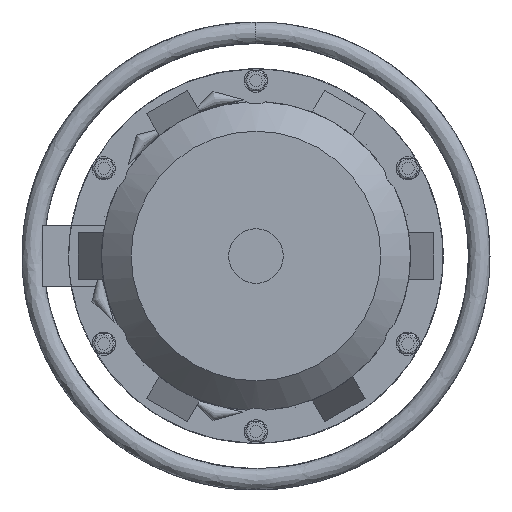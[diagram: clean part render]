
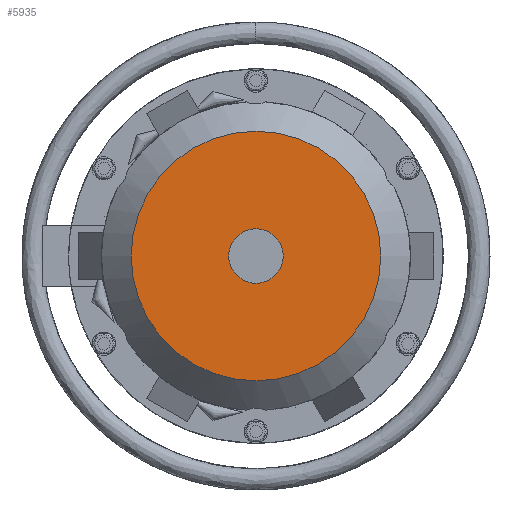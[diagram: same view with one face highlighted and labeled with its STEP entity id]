
A CAD part, left-side view. The second image highlights one B-rep face of the part: STEP entity #5935.
In plain terms, the highlighted planar face has unit normal (-1, 0, 0).
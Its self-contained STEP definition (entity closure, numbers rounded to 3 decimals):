
#1221=FACE_BOUND('',#1760,.T.);
#1389=FACE_OUTER_BOUND('',#1759,.T.);
#1759=EDGE_LOOP('',(#4304));
#1760=EDGE_LOOP('',(#4305));
#2088=CIRCLE('',#6430,17.5);
#2089=CIRCLE('',#6432,80.);
#2401=VERTEX_POINT('',#9119);
#2402=VERTEX_POINT('',#9123);
#3092=EDGE_CURVE('',#2401,#2401,#2088,.T.);
#3094=EDGE_CURVE('',#2402,#2402,#2089,.T.);
#4304=ORIENTED_EDGE('',*,*,#3094,.T.);
#4305=ORIENTED_EDGE('',*,*,#3092,.T.);
#5382=PLANE('',#6433);
#5935=ADVANCED_FACE('',(#1389,#1221),#5382,.T.);
#6430=AXIS2_PLACEMENT_3D('',#9121,#7312,#7313);
#6432=AXIS2_PLACEMENT_3D('',#9125,#7317,#7318);
#6433=AXIS2_PLACEMENT_3D('',#9126,#7319,#7320);
#7312=DIRECTION('center_axis',(1.,0.,0.));
#7313=DIRECTION('ref_axis',(0.,-1.,0.));
#7317=DIRECTION('center_axis',(-1.,0.,0.));
#7318=DIRECTION('ref_axis',(0.,0.,-1.));
#7319=DIRECTION('center_axis',(-1.,0.,0.));
#7320=DIRECTION('ref_axis',(0.,1.,0.));
#9119=CARTESIAN_POINT('',(-403.,17.5,0.));
#9121=CARTESIAN_POINT('Origin',(-403.,0.,
0.));
#9123=CARTESIAN_POINT('',(-403.,0.,80.));
#9125=CARTESIAN_POINT('Origin',(-403.,0.,
0.));
#9126=CARTESIAN_POINT('Origin',(-403.,0.,
-40.));
